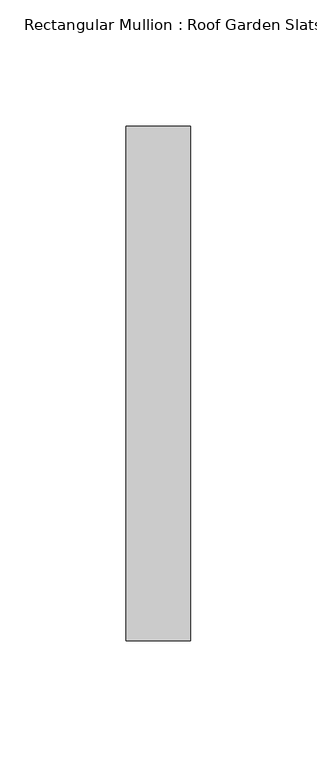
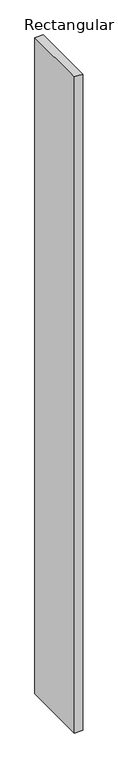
"""IFC4 building model written with IfcOpenShell, lengths in millimetres: member geometry, Rectangular Mullion : Roof Garden Slats."""

from ifc_helpers import new_model, si_unit, frame, origin, place, context, project, spatial, polyline, outline, extrude, source, transform, mapped, element, save


def rectangular_mullion_roof_garden_slats_8ce76511(model_context):
    return source(origin(), model_context, "Body", "SweptSolid", [
        extrude(outline(polyline([(12.7, 139.7), (12.7, -63.5), (-12.7, -63.5), (-12.7, 139.7), (12.7, 139.7)])), frame((0.0, 0.0, -2059.530219), z_axis=(0.0, 0.0, 1.0), x_axis=(1.0, 0.0, 0.0)), (0.0, 0.0, 1.0), 2059.530219),
    ])


if __name__ == "__main__":
    model = new_model("IFC4")
    model_context = context("Model", 3, world=origin())
    ifc_project = project(units=[si_unit("LENGTHUNIT", "METRE", prefix="MILLI")], contexts=[model_context])
    site = spatial("IfcSite", under=ifc_project)
    building = spatial("IfcBuilding", under=site)
    placement = place(None, origin())
    rectangular_mullion_roof_garden_slats_shape = rectangular_mullion_roof_garden_slats_8ce76511(model_context)
    element("IfcMember", 1, ObjectType="Rectangular Mullion : Roof Garden Slats", at=placement, inside=building, context=model_context, shape_type="MappedRepresentation", body=[
        mapped(rectangular_mullion_roof_garden_slats_shape, transform((0.0, 0.0, 0.0), x_axis=(1.0, 0.0, 0.0), y_axis=(0.0, 1.0, 0.0), z_axis=(0.0, 0.0, 1.0))),
    ])
    save(model, "model.ifc")
